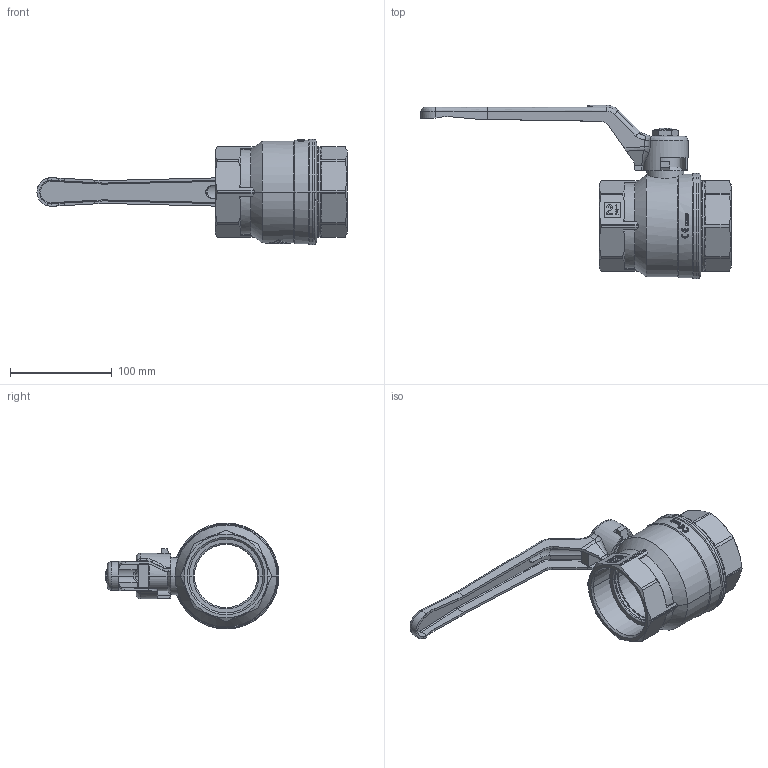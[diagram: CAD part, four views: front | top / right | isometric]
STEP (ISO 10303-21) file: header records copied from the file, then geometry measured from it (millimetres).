
FILE_DESCRIPTION(('OneSpaceDesigner STEP Export'),'2;1');
FILE_NAME('1500120000.stp','2007-11-21T 8:26:50',(''),(''),'OneSpace Designer STEP processor for AP214 (Solid Model)','OneSpace Modeling 15.00B 25-Jun-2007 (C) CoCreate Software GmbH','');
FILE_SCHEMA(('AUTOMOTIVE_DESIGN { 1 0 10303 214 1 1 1 1 }'));
Products named in the file (1): 1500120000
Bounding box: 304.75 x 170.75 x 104 mm (x, y, z)
Volume: 501907.6 mm3; surface area: 111610 mm2
Topology: 1 solids, 3 shells, 894 faces, 2471 edges, 1598 vertices
Faces by surface type: plane 555, cylinder 201, cone 72, bspline 40, torus 20, extrusion 6
Entity records: 51378 total; most frequent: CARTESIAN_POINT 28568, ORIENTED_EDGE 4934, DIRECTION 3984, EDGE_CURVE 2467, VERTEX_POINT 1598, AXIS2_PLACEMENT_3D 1419, VECTOR 1146, LINE 1140
